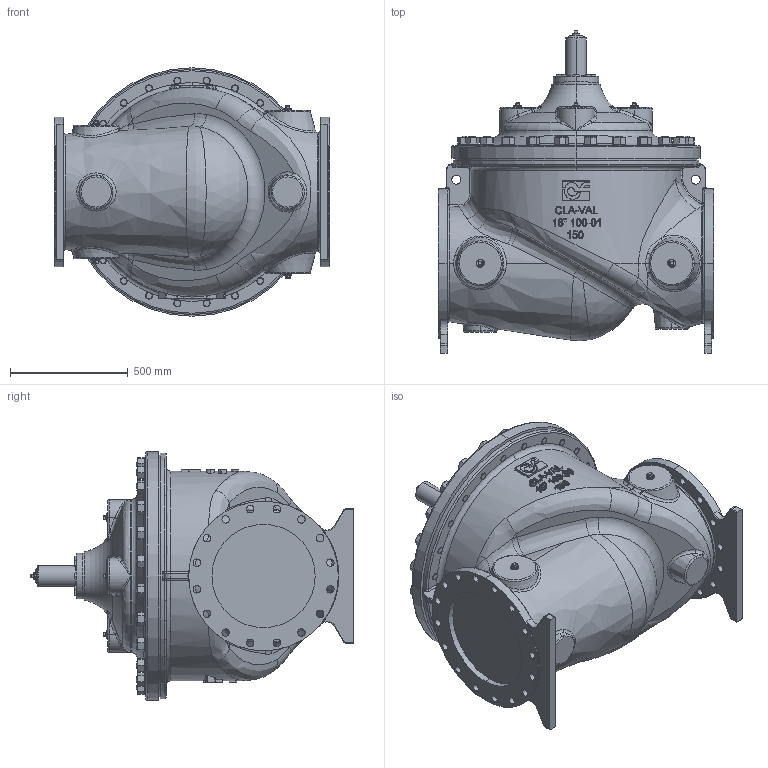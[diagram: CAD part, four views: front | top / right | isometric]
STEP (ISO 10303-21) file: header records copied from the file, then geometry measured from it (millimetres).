
FILE_DESCRIPTION (( 'STEP AP203' ), '1' );
FILE_NAME ('18in Hytrol 150AG.STEP', '2018-04-05T17:19:28', ( '' ), ( '' ), 'SwSTEP 2.0', 'SolidWorks 2017', '' );
FILE_SCHEMA (( 'CONFIG_CONTROL_DESIGN' ));
Length unit declared in the file: inch
Products named in the file (9): 1.0 NPT SQ HD PIPE PLUG (67660)_18-8 SST; 25724 Housing Cover Bearing 24in 100-01_MONEL  24in; 18in Hytrol 150AG; 18in Body HyGl150A STD_Default 150LB FLAT FACE; 18in Cover; WASHER, PLAIN FLAT FOR 1.250 SCREW (67757)_1.250N   67757-04H; Hexnut 1.250-7 UNC (67820)_ASH-STEEL; STUD 1.250-7 UNC (42786)_STEEL 5.25 LG; Bolt .500-13 UNC  (67607)_1.75   67607-53B
Assembly tree (92 placements, depth 2):
  18in Hytrol 150AG
    18in Body HyGl150A STD_Default 150LB FLAT FACE
    18in Cover
    WASHER, PLAIN FLAT FOR 1.250 SCREW (67757)_1.250N   67757-04H  x24
    Hexnut 1.250-7 UNC (67820)_ASH-STEEL  x24
    STUD 1.250-7 UNC (42786)_STEEL 5.25 LG  x24
    Bolt .500-13 UNC  (67607)_1.75   67607-53B  x8
    1.0 NPT SQ HD PIPE PLUG (67660)_18-8 SST  x9
    25724 Housing Cover Bearing 24in 100-01_MONEL  24in
Bounding box: 1168.4 x 1369.19 x 1054.1 mm (x, y, z)
Volume: 582762991.9 mm3; surface area: 8462494.4 mm2
Topology: 92 solids, 92 shells, 3193 faces, 7221 edges, 4203 vertices
Faces by surface type: cylinder 954, cone 819, plane 639, torus 347, bspline 339, sphere 95
Entity records: 82934 total; most frequent: CARTESIAN_POINT 45344, ORIENTED_EDGE 7410, DIRECTION 6861, EDGE_CURVE 3705, AXIS2_PLACEMENT_3D 2807, VERTEX_POINT 2252, EDGE_LOOP 1793, FACE_OUTER_BOUND 1531
